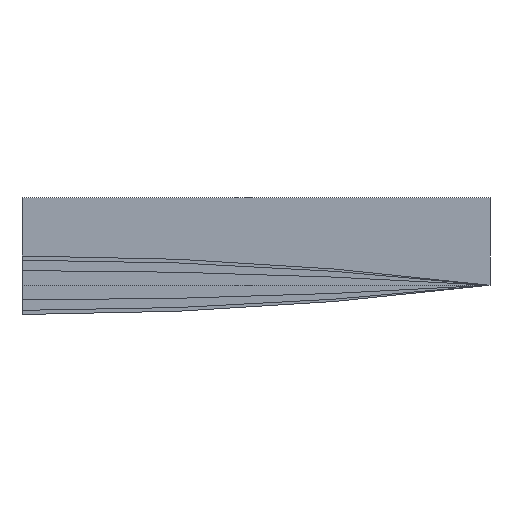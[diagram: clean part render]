
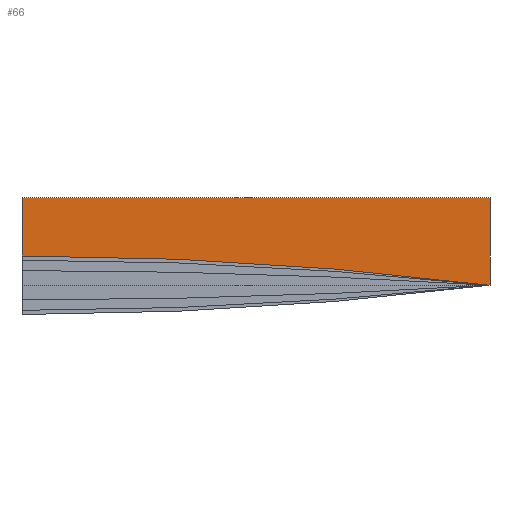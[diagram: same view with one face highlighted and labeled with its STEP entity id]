
A CAD part, front view. The second image highlights one B-rep face of the part: STEP entity #66.
In plain terms, the highlighted planar face has unit normal (0, -1, 0).
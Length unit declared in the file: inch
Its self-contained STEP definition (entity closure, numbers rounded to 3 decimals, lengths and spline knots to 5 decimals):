
#66=ADVANCED_FACE('',(#108),#596,.T.);
#108=FACE_OUTER_BOUND('',#150,.T.);
#150=EDGE_LOOP('',(#312,#313,#314,#315));
#312=ORIENTED_EDGE('',*,*,#401,.T.);
#313=ORIENTED_EDGE('',*,*,#403,.T.);
#314=ORIENTED_EDGE('',*,*,#396,.T.);
#315=ORIENTED_EDGE('',*,*,#398,.T.);
#396=EDGE_CURVE('',#551,#553,#494,.T.);
#398=EDGE_CURVE('',#553,#549,#421,.T.);
#401=EDGE_CURVE('',#549,#554,#497,.T.);
#403=EDGE_CURVE('',#554,#551,#499,.T.);
#421=TRIMMED_CURVE($,#433,(#1081),(#1082),.T.,.CARTESIAN.);
#433=CIRCLE('',#742,385.5);
#494=B_SPLINE_CURVE_WITH_KNOTS('',1,(#1075,#1076),.UNSPECIFIED.,.F.,.F.,
(2,2),(204.24981,210.24981),.UNSPECIFIED.);
#497=B_SPLINE_CURVE_WITH_KNOTS('',1,(#1087,#1088),.UNSPECIFIED.,.F.,.F.,
(2,2),(0.,9.),.UNSPECIFIED.);
#499=B_SPLINE_CURVE_WITH_KNOTS('',1,(#1091,#1092),.UNSPECIFIED.,.F.,.F.,
(2,2),(156.24981,204.24981),.UNSPECIFIED.);
#549=VERTEX_POINT('',#1060);
#551=VERTEX_POINT('',#1062);
#553=VERTEX_POINT('',#1064);
#554=VERTEX_POINT('',#1065);
#596=PLANE('',#739);
#739=AXIS2_PLACEMENT_3D('',#1057,#806,$);
#742=AXIS2_PLACEMENT_3D($,#1080,#810,#811);
#806=DIRECTION('',(0.,-1.,0.));
#810=DIRECTION('',(0.,1.,0.));
#811=DIRECTION('',(0.,0.,1.));
#1057=CARTESIAN_POINT('',(-1063.34355,-0.9583,385.84288));
#1060=CARTESIAN_POINT('',(-1003.34355,-0.9583,390.34288));
#1062=CARTESIAN_POINT('',(-1051.34355,-0.9583,399.34288));
#1064=CARTESIAN_POINT('',(-1051.34355,-0.9583,393.34288));
#1065=CARTESIAN_POINT('',(-1003.34355,-0.9583,399.34288));
#1075=CARTESIAN_POINT('',(-1051.34355,-0.9583,399.34288));
#1076=CARTESIAN_POINT('',(-1051.34355,-0.9583,393.34288));
#1080=CARTESIAN_POINT('',(-1051.34355,-0.9583,7.84288));
#1081=CARTESIAN_POINT('',(-1051.34355,-0.9583,393.34288));
#1082=CARTESIAN_POINT('',(-1003.34355,-0.9583,390.34288));
#1087=CARTESIAN_POINT('',(-1003.34355,-0.9583,390.34288));
#1088=CARTESIAN_POINT('',(-1003.34355,-0.9583,399.34288));
#1091=CARTESIAN_POINT('',(-1003.34355,-0.9583,399.34288));
#1092=CARTESIAN_POINT('',(-1051.34355,-0.9583,399.34288));
